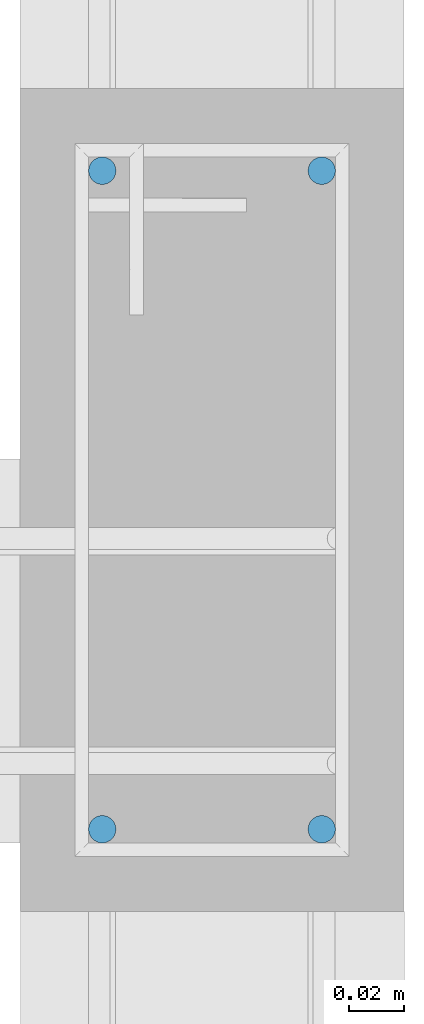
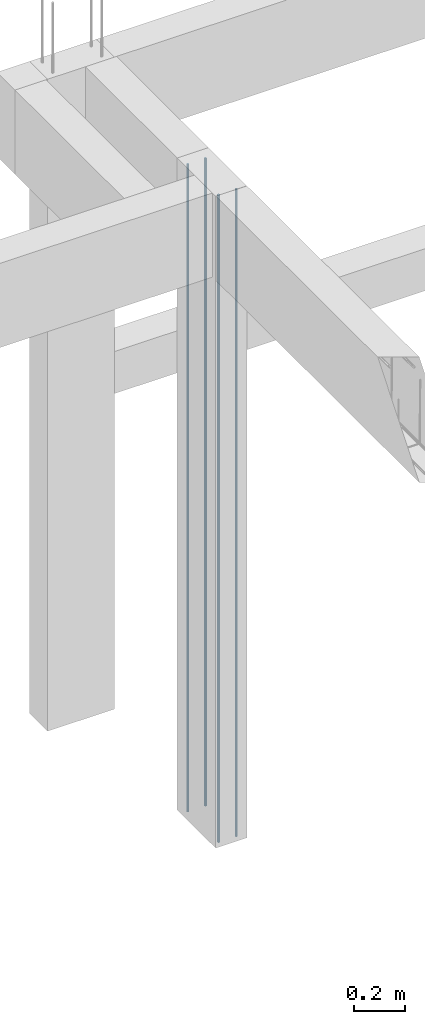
# One storey, part 125 of 236: 4 reinforcing bars.
"""IFC4 building model written with IfcOpenShell, lengths in centimetres."""

from ifc_helpers import new_model, entity, si_unit, derived_unit, frame, origin_with_axes, place, context, project, spatial, element, save


model = new_model("IFC4")

# Units and contexts
model_context = context("Model", 3, precision=1e-05, world=origin_with_axes(), identifier="Body")
ifc_project = project(units=[si_unit("LENGTHUNIT", "METRE", prefix="CENTI"), si_unit("VOLUMEUNIT", "CUBIC_METRE"), si_unit("AREAUNIT", "SQUARE_METRE"), si_unit("POWERUNIT", "WATT"), si_unit("LUMINOUSFLUXUNIT", "LUMEN"), si_unit("ELECTRICCURRENTUNIT", "AMPERE"), si_unit("PRESSUREUNIT", "PASCAL", prefix="KILO"), si_unit("MASSUNIT", "GRAM", prefix="KILO"), si_unit("PLANEANGLEUNIT", "RADIAN"), derived_unit("VOLUMETRICFLOWRATEUNIT", [(si_unit("LENGTHUNIT", "METRE"), 3), (si_unit("TIMEUNIT", "SECOND"), -1)])], contexts=[model_context])

# Site, building, storey
site_placement = place(None, frame((-4000.0, 0.0, 0.0), z_axis=(0.0, 0.0, 1.0), x_axis=(1.0, 0.0, 0.0)))
site = spatial("IfcSite", under=ifc_project, at=site_placement, Name="PADRÃO")
building_placement = place(site_placement, frame((0.0, 0.0, -14.0)))
building = spatial("IfcBuilding", under=site, at=building_placement, Name="CRECHE PRÉ-ESCOLA TIPO 2")
placement_1 = place(building_placement, origin_with_axes())
placement_2 = place(placement_1, frame((0.0, 0.0, 30.0), z_axis=(0.0, 0.0, 1.0), x_axis=(1.0, 0.0, 0.0)))
storey_placement = place(placement_2, frame((0.0, 0.0, 310.0), z_axis=(0.0, 0.0, 1.0), x_axis=(1.0, 0.0, 0.0)))
storey = spatial("IfcBuildingStorey", under=building, at=storey_placement, Name="TERREO", CompositionType="ELEMENT", Elevation=326.0)

# Reinforcing bars
for number, where, z_axis, x_axis, name in (
    (1, (499.67, 4003.5, -2.0), (0.0, 0.0, 1.0), (1.0, 0.0, 0.0), "P24 - Longitudinal"),
    (2, (499.67, 3979.5, -2.0), (0.0, 0.0, 1.0), (1.0, 0.0, 0.0), "P24 - Longitudinal"),
    (3, (507.67, 3979.5, -2.0), (0.0, 0.0, 1.0), (1.0, 0.0, 0.0), "P24 - Longitudinal"),
    (4, (507.67, 4003.5, -2.0), (0.0, 0.0, 1.0), (1.0, 0.0, 0.0), "P24 - Longitudinal"),
):
    element("IfcReinforcingBar", number, at=place(storey_placement, frame(where, z_axis=z_axis, x_axis=x_axis)), inside=storey, Name=name, BarLength=0.0, CrossSectionArea=7.853981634e-05, NominalDiameter=1.0, PredefinedType="MAIN", context=model_context, shape_type="AdvancedSweptSolid", body=[
        entity("IfcSweptDiskSolid", entity("IfcCompositeCurve", [entity("IfcCompositeCurveSegment", "CONTINUOUS", True, entity("IfcPolyline", [entity("IfcCartesianPoint", [0.0, 0.0, -308.0]), entity("IfcCartesianPoint", [0.0, 0.0, 0.0])]))], False), 0.5),
    ])

save(model, "model.ifc")
